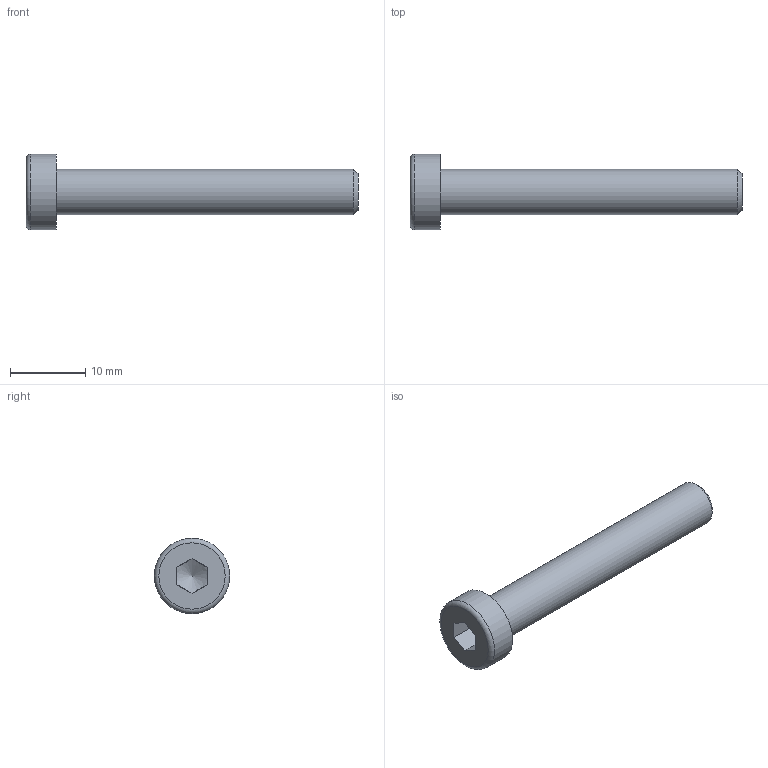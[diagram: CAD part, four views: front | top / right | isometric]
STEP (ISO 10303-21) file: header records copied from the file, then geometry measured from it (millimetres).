
FILE_DESCRIPTION((''),'2;1');
FILE_NAME('C:\Documents and Settings\Administrator\My Documents\Andys Backup Data\ANDY''S INVENTOR\INVENTOR LIBRARIES\MINITEC INVENTOR LIBRARIES\FASTENING ELEMENTS\SCREWS CAP\step\21.1247 M6X40.stp','2010-06-30T08:44:55',('Administrator'),(''),'Autodesk Inventor 2009','Autodesk Inventor 2009','');
FILE_SCHEMA(('AUTOMOTIVE_DESIGN { 1 0 10303 214 1 1 1 1 }'));
Length unit declared in the file: millimetre
Products named in the file (1): 21.1247 M6 x 40
Bounding box: 44 x 10 x 10 mm (x, y, z)
Volume: 1390.7 mm3; surface area: 1066.6 mm2
Topology: 1 solids, 1 shells, 14 faces, 30 edges, 19 vertices
Faces by surface type: plane 9, cone 2, cylinder 2, torus 1
Full cylindrical faces by diameter (mm): 6 x1, 10 x1
Entity records: 362 total; most frequent: CARTESIAN_POINT 69, DIRECTION 54, ORIENTED_EDGE 48, EDGE_CURVE 24, AXIS2_PLACEMENT_3D 21, EDGE_LOOP 20, VERTEX_POINT 18, FACE_OUTER_BOUND 14
